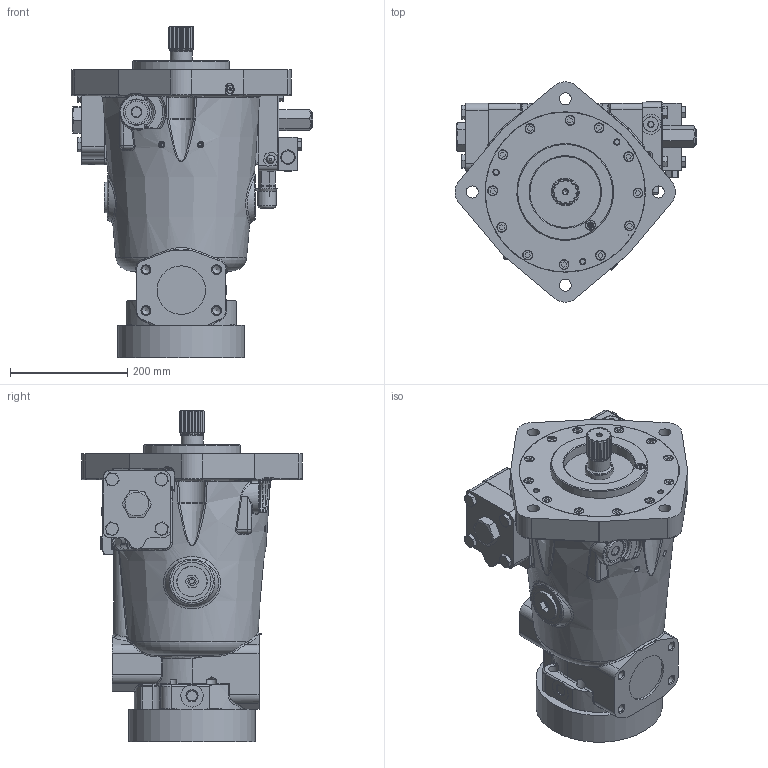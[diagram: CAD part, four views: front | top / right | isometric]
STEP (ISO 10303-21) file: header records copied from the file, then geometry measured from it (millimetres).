
FILE_DESCRIPTION(/* description */ (''),/* implementation_level */ '2;1');
FILE_NAME(/* name */ 'G:\Cadusers\Miller\3D\P12H3L1DM10C0 solid.stp',/* time_stamp */ '2015-08-10T09:18:08-04:00',/* author */ ('cma4859'),/* organization */ (''),/* preprocessor_version */ 'ST-DEVELOPER v15.2',/* originating_system */ 'Autodesk Inventor 2014',/* authorisation */ '');
FILE_SCHEMA (('AUTOMOTIVE_DESIGN { 1 0 10303 214 3 1 1 }'));
Products named in the file (1): P12H3L1DM10C0 solid
Bounding box: 412.6 x 375.88 x 565.61 mm (x, y, z)
Volume: 25448099.8 mm3; surface area: 1197624.5 mm2
Topology: 58 solids, 62 shells, 2119 faces, 5616 edges, 3731 vertices
Faces by surface type: plane 753, cylinder 510, cone 368, bspline 282, torus 193, sphere 13
Full cylindrical faces by diameter (mm): 1.5 x2, 2.184 x4, 4.78 x2, 6 x1, 6.35 x10, 6.401 x1, 6.782 x1, 7.938 x10, 8.026 x1, 8.509 x3, 9.246 x2, 9.25 x2, 9.52 x2, 10 x4, 10.16 x12, 10.319 x12, 10.592 x4, 11.1 x9, 11.113 x7, 11.887 x1, 12 x8, 12.217 x2, 12.497 x2, 12.5 x9, 13.386 x4, 13.494 x8, 13.7 x2, 14.224 x2, 14.287 x1, 14.3 x2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
Entity records: 87467 total; most frequent: CARTESIAN_POINT 39194, ORIENTED_EDGE 9860, DIRECTION 8746, EDGE_CURVE 4930, AXIS2_PLACEMENT_3D 3755, VERTEX_POINT 3609, EDGE_LOOP 2891, STYLED_ITEM 2176
